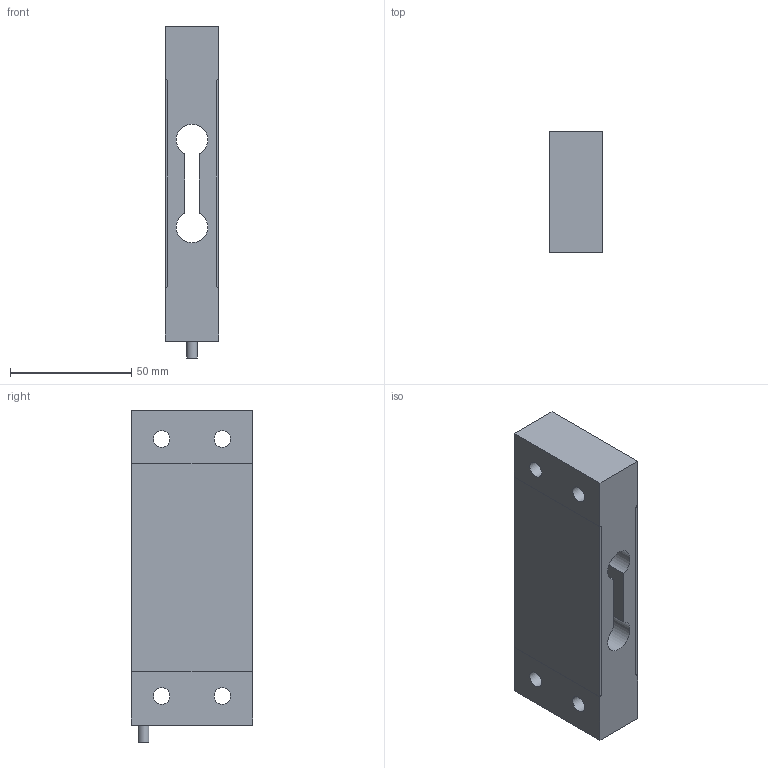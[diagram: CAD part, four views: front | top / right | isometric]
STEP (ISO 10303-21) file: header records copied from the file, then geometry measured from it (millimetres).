
FILE_DESCRIPTION (( 'STEP AP214' ), '1' );
FILE_NAME ('3D_KM302_1KN_komp.STEP', '2012-12-13T11:05:30', ( 'mega' ), ( 'mega' ), 'SwSTEP 2.0', 'SolidWorks 2012', '' );
FILE_SCHEMA (( 'AUTOMOTIVE_DESIGN' ));
Length unit declared in the file: millimetre
Products named in the file (1): 3D_KM302_1KN_komp
Bounding box: 22.2 x 50 x 137 mm (x, y, z)
Volume: 120380.8 mm3; surface area: 27735.7 mm2
Topology: 1 solids, 1 shells, 49 faces, 127 edges, 82 vertices
Faces by surface type: plane 28, cylinder 17, cone 4
Full cylindrical faces by diameter (mm): 4.5 x1, 6.8 x4
Entity records: 1688 total; most frequent: DIRECTION 252, CARTESIAN_POINT 242, ORIENTED_EDGE 228, EDGE_CURVE 114, AXIS2_PLACEMENT_3D 88, VERTEX_POINT 78, VECTOR 76, LINE 76
